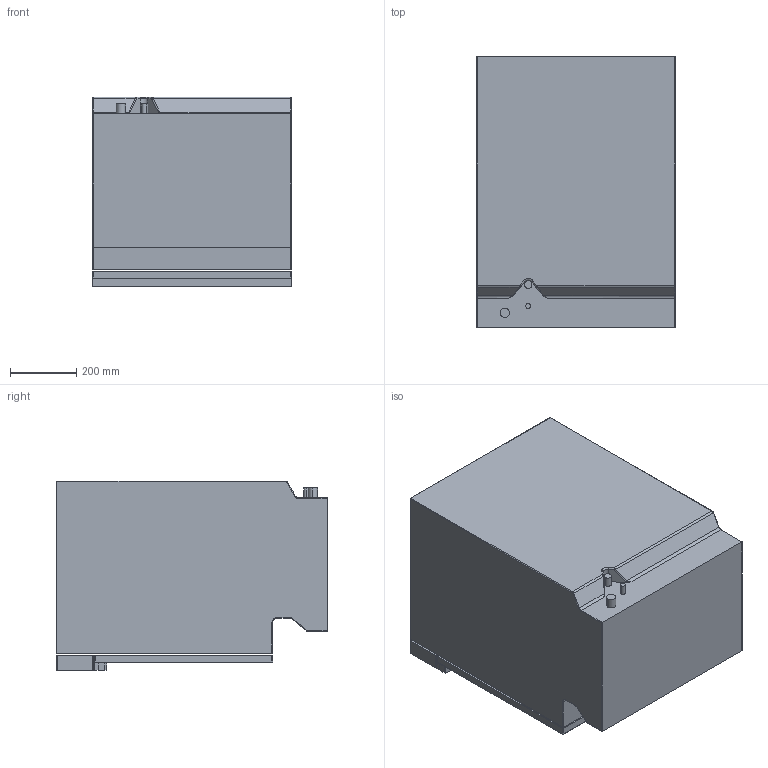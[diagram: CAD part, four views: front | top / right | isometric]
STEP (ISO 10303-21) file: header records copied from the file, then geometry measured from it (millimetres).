
FILE_DESCRIPTION (( 'STEP AP214' ), '1' );
FILE_NAME ('PL820 Serie i Gamma Completa - PANNELLO - i2 inox.STEP', '2023-03-29T08:36:57', ( '' ), ( '' ), 'SwSTEP 2.0', 'SolidWorks 2021', '' );
FILE_SCHEMA (( 'AUTOMOTIVE_DESIGN' ));
Length unit declared in the file: millimetre
Products named in the file (1): PL820 Serie i Gamma Completa - PANNELLO - i2 inox
Bounding box: 598 x 818 x 571 mm (x, y, z)
Volume: 253187826.1 mm3; surface area: 3647784.4 mm2
Topology: 12 solids, 12 shells, 597 faces, 1434 edges, 892 vertices
Faces by surface type: plane 314, cylinder 185, cone 50, bspline 31, torus 11, sphere 6
Entity records: 17659 total; most frequent: CARTESIAN_POINT 3736, DIRECTION 2869, ORIENTED_EDGE 2856, EDGE_CURVE 1428, AXIS2_PLACEMENT_3D 963, LINE 943, VECTOR 943, VERTEX_POINT 892
